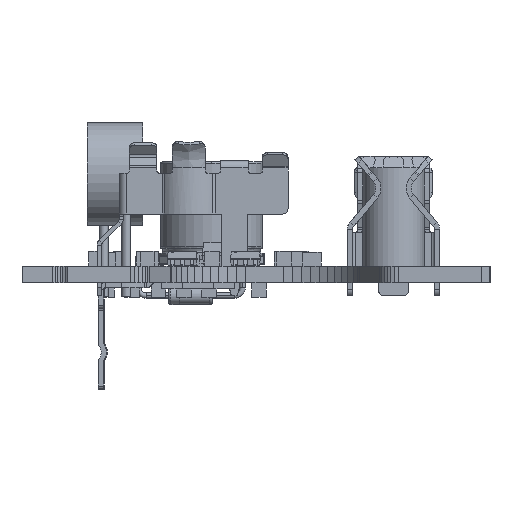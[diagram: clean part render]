
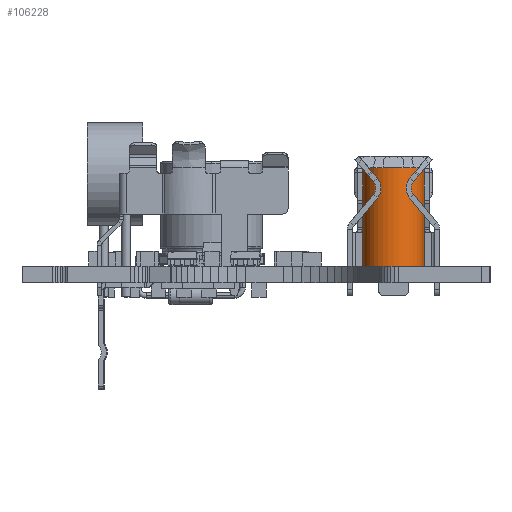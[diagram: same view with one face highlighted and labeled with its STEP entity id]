
A CAD part, left-side view. The second image highlights one B-rep face of the part: STEP entity #106228.
In plain terms, the highlighted cylindrical face has radius 3 mm (diameter 6 mm), a partial arc.
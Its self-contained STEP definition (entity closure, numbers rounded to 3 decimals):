
#106122 = VERTEX_POINT('',#106123);
#106123 = CARTESIAN_POINT('',(-3.,-6.952,10.));
#106124 = VERTEX_POINT('',#106125);
#106125 = CARTESIAN_POINT('',(3.,-6.952,10.));
#106133 = CYLINDRICAL_SURFACE('',#106134,3.);
#106134 = AXIS2_PLACEMENT_3D('',#106135,#106136,#106137);
#106135 = CARTESIAN_POINT('',(0.,-6.952,10.));
#106136 = DIRECTION('',(0.,0.,-1.));
#106137 = DIRECTION('',(-1.,0.,0.));
#106144 = PLANE('',#106145);
#106145 = AXIS2_PLACEMENT_3D('',#106146,#106147,#106148);
#106146 = CARTESIAN_POINT('',(0.,-6.952,10.));
#106147 = DIRECTION('',(0.,0.,-1.));
#106148 = DIRECTION('',(-1.,0.,0.));
#106156 = EDGE_CURVE('',#106124,#106157,#106159,.T.);
#106157 = VERTEX_POINT('',#106158);
#106158 = CARTESIAN_POINT('',(3.,-6.952,0.));
#106159 = SURFACE_CURVE('',#106160,(#106164,#106170),.PCURVE_S1.);
#106160 = LINE('',#106161,#106162);
#106161 = CARTESIAN_POINT('',(3.,-6.952,10.));
#106162 = VECTOR('',#106163,1.);
#106163 = DIRECTION('',(0.,0.,-1.));
#106164 = PCURVE('',#106133,#106165);
#106165 = DEFINITIONAL_REPRESENTATION('',(#106166),#106169);
#106166 = B_SPLINE_CURVE_WITH_KNOTS('',1,(#106167,#106168),
  .UNSPECIFIED.,.F.,.F.,(2,2),(0.,10.),.PIECEWISE_BEZIER_KNOTS.);
#106167 = CARTESIAN_POINT('',(3.142,0.));
#106168 = CARTESIAN_POINT('',(3.142,10.));
#106169 = ( GEOMETRIC_REPRESENTATION_CONTEXT(2) 
PARAMETRIC_REPRESENTATION_CONTEXT() REPRESENTATION_CONTEXT('2D SPACE',''
  ) );
#106170 = PCURVE('',#106171,#106176);
#106171 = CYLINDRICAL_SURFACE('',#106172,3.);
#106172 = AXIS2_PLACEMENT_3D('',#106173,#106174,#106175);
#106173 = CARTESIAN_POINT('',(0.,-6.952,10.));
#106174 = DIRECTION('',(0.,0.,-1.));
#106175 = DIRECTION('',(-1.,0.,0.));
#106176 = DEFINITIONAL_REPRESENTATION('',(#106177),#106180);
#106177 = B_SPLINE_CURVE_WITH_KNOTS('',1,(#106178,#106179),
  .UNSPECIFIED.,.F.,.F.,(2,2),(0.,10.),.PIECEWISE_BEZIER_KNOTS.);
#106178 = CARTESIAN_POINT('',(3.142,0.));
#106179 = CARTESIAN_POINT('',(3.142,10.));
#106180 = ( GEOMETRIC_REPRESENTATION_CONTEXT(2) 
PARAMETRIC_REPRESENTATION_CONTEXT() REPRESENTATION_CONTEXT('2D SPACE',''
  ) );
#106183 = VERTEX_POINT('',#106184);
#106184 = CARTESIAN_POINT('',(-3.,-6.952,0.));
#106198 = PLANE('',#106199);
#106199 = AXIS2_PLACEMENT_3D('',#106200,#106201,#106202);
#106200 = CARTESIAN_POINT('',(0.,-6.952,0.));
#106201 = DIRECTION('',(0.,0.,-1.));
#106202 = DIRECTION('',(-1.,0.,0.));
#106210 = EDGE_CURVE('',#106122,#106183,#106211,.T.);
#106211 = SURFACE_CURVE('',#106212,(#106216,#106222),.PCURVE_S1.);
#106212 = LINE('',#106213,#106214);
#106213 = CARTESIAN_POINT('',(-3.,-6.952,10.));
#106214 = VECTOR('',#106215,1.);
#106215 = DIRECTION('',(0.,0.,-1.));
#106216 = PCURVE('',#106133,#106217);
#106217 = DEFINITIONAL_REPRESENTATION('',(#106218),#106221);
#106218 = B_SPLINE_CURVE_WITH_KNOTS('',1,(#106219,#106220),
  .UNSPECIFIED.,.F.,.F.,(2,2),(0.,10.),.PIECEWISE_BEZIER_KNOTS.);
#106219 = CARTESIAN_POINT('',(0.,0.));
#106220 = CARTESIAN_POINT('',(0.,10.));
#106221 = ( GEOMETRIC_REPRESENTATION_CONTEXT(2) 
PARAMETRIC_REPRESENTATION_CONTEXT() REPRESENTATION_CONTEXT('2D SPACE',''
  ) );
#106222 = PCURVE('',#106171,#106223);
#106223 = DEFINITIONAL_REPRESENTATION('',(#106224),#106227);
#106224 = B_SPLINE_CURVE_WITH_KNOTS('',1,(#106225,#106226),
  .UNSPECIFIED.,.F.,.F.,(2,2),(0.,10.),.PIECEWISE_BEZIER_KNOTS.);
#106225 = CARTESIAN_POINT('',(6.283,0.));
#106226 = CARTESIAN_POINT('',(6.283,10.));
#106227 = ( GEOMETRIC_REPRESENTATION_CONTEXT(2) 
PARAMETRIC_REPRESENTATION_CONTEXT() REPRESENTATION_CONTEXT('2D SPACE',''
  ) );
#106228 = ADVANCED_FACE('',(#106229),#106171,.T.);
#106229 = FACE_BOUND('',#106230,.T.);
#106230 = EDGE_LOOP('',(#106231,#106232,#106253,#106254));
#106231 = ORIENTED_EDGE('',*,*,#106156,.F.);
#106232 = ORIENTED_EDGE('',*,*,#106233,.T.);
#106233 = EDGE_CURVE('',#106124,#106122,#106234,.T.);
#106234 = SURFACE_CURVE('',#106235,(#106240,#106246),.PCURVE_S1.);
#106235 = CIRCLE('',#106236,3.);
#106236 = AXIS2_PLACEMENT_3D('',#106237,#106238,#106239);
#106237 = CARTESIAN_POINT('',(0.,-6.952,10.));
#106238 = DIRECTION('',(0.,0.,-1.));
#106239 = DIRECTION('',(-1.,0.,0.));
#106240 = PCURVE('',#106171,#106241);
#106241 = DEFINITIONAL_REPRESENTATION('',(#106242),#106245);
#106242 = B_SPLINE_CURVE_WITH_KNOTS('',1,(#106243,#106244),
  .UNSPECIFIED.,.F.,.F.,(2,2),(3.142,6.283),
  .PIECEWISE_BEZIER_KNOTS.);
#106243 = CARTESIAN_POINT('',(3.142,0.));
#106244 = CARTESIAN_POINT('',(6.283,0.));
#106245 = ( GEOMETRIC_REPRESENTATION_CONTEXT(2) 
PARAMETRIC_REPRESENTATION_CONTEXT() REPRESENTATION_CONTEXT('2D SPACE',''
  ) );
#106246 = PCURVE('',#106144,#106247);
#106247 = DEFINITIONAL_REPRESENTATION('',(#106248),#106252);
#106248 = CIRCLE('',#106249,3.);
#106249 = AXIS2_PLACEMENT_2D('',#106250,#106251);
#106250 = CARTESIAN_POINT('',(0.,0.));
#106251 = DIRECTION('',(1.,0.));
#106252 = ( GEOMETRIC_REPRESENTATION_CONTEXT(2) 
PARAMETRIC_REPRESENTATION_CONTEXT() REPRESENTATION_CONTEXT('2D SPACE',''
  ) );
#106253 = ORIENTED_EDGE('',*,*,#106210,.T.);
#106254 = ORIENTED_EDGE('',*,*,#106255,.F.);
#106255 = EDGE_CURVE('',#106157,#106183,#106256,.T.);
#106256 = SURFACE_CURVE('',#106257,(#106262,#106268),.PCURVE_S1.);
#106257 = CIRCLE('',#106258,3.);
#106258 = AXIS2_PLACEMENT_3D('',#106259,#106260,#106261);
#106259 = CARTESIAN_POINT('',(0.,-6.952,0.));
#106260 = DIRECTION('',(0.,0.,-1.));
#106261 = DIRECTION('',(-1.,0.,0.));
#106262 = PCURVE('',#106171,#106263);
#106263 = DEFINITIONAL_REPRESENTATION('',(#106264),#106267);
#106264 = B_SPLINE_CURVE_WITH_KNOTS('',1,(#106265,#106266),
  .UNSPECIFIED.,.F.,.F.,(2,2),(3.142,6.283),
  .PIECEWISE_BEZIER_KNOTS.);
#106265 = CARTESIAN_POINT('',(3.142,10.));
#106266 = CARTESIAN_POINT('',(6.283,10.));
#106267 = ( GEOMETRIC_REPRESENTATION_CONTEXT(2) 
PARAMETRIC_REPRESENTATION_CONTEXT() REPRESENTATION_CONTEXT('2D SPACE',''
  ) );
#106268 = PCURVE('',#106198,#106269);
#106269 = DEFINITIONAL_REPRESENTATION('',(#106270),#106274);
#106270 = CIRCLE('',#106271,3.);
#106271 = AXIS2_PLACEMENT_2D('',#106272,#106273);
#106272 = CARTESIAN_POINT('',(0.,0.));
#106273 = DIRECTION('',(1.,0.));
#106274 = ( GEOMETRIC_REPRESENTATION_CONTEXT(2) 
PARAMETRIC_REPRESENTATION_CONTEXT() REPRESENTATION_CONTEXT('2D SPACE',''
  ) );
